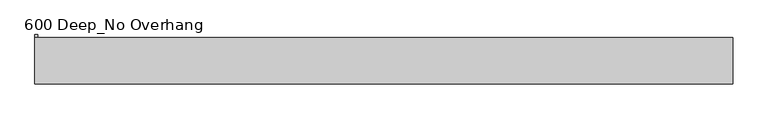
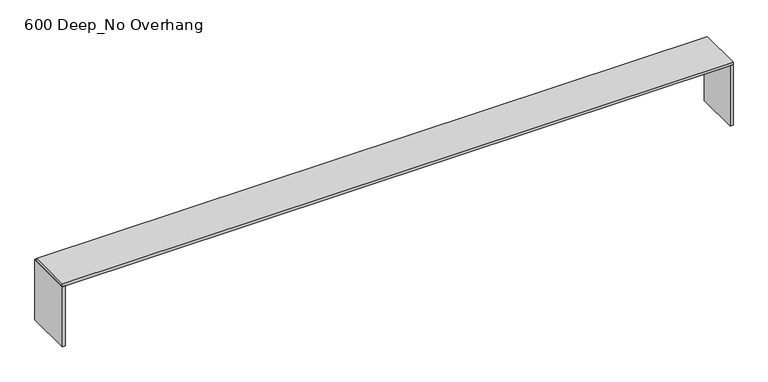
"""IFC4 building model written with IfcOpenShell, lengths in millimetres: furniture geometry, Benchtop_Optional Hole_I Shaped_CAS : 600 Deep_No Overhang."""

from ifc_helpers import new_model, si_unit, frame, origin, origin_with_axes, place, context, project, spatial, polyline, outline, extrude, source, transform, mapped, element, save


def furniture_600_deep_no_overhang_b93bba7b(model_context):
    return source(origin(), model_context, "Body", "SweptSolid", [
        extrude(outline(polyline([(7862.6003264, -600.0), (7862.6003264, 0.0), (7902.6003264, 0.0), (7902.6003264, -600.0), (7862.6003264, -600.0)])), origin_with_axes(), (0.0, 0.0, 1.0), 860.0),
        extrude(outline(polyline([(-1115.2996736, 40.0), (-1115.2996736, -600.0), (-1155.2996736, -600.0), (-1155.2996736, 40.0), (-1115.2996736, 40.0)])), origin_with_axes(), (0.0, 0.0, 1.0), 860.0),
        extrude(outline(polyline([(7902.6003264, 0.0), (7902.6003264, -600.0), (-1155.2996736, -600.0), (-1155.2996736, 0.0), (7902.6003264, 0.0)])), frame((0.0, 0.0, 860.0), z_axis=(0.0, 0.0, 1.0), x_axis=(1.0, 0.0, 0.0)), (0.0, 0.0, 1.0), 40.0),
    ])


if __name__ == "__main__":
    model = new_model("IFC4")
    model_context = context("Model", 3, world=origin())
    ifc_project = project(units=[si_unit("LENGTHUNIT", "METRE", prefix="MILLI")], contexts=[model_context])
    site = spatial("IfcSite", under=ifc_project)
    building = spatial("IfcBuilding", under=site)
    placement = place(None, origin())
    furniture_600_deep_no_overhang_shape = furniture_600_deep_no_overhang_b93bba7b(model_context)
    element("IfcFurniture", 1, ObjectType="Benchtop_Optional Hole_I Shaped_CAS : 600 Deep_No Overhang", at=placement, inside=building, context=model_context, shape_type="MappedRepresentation", body=[
        mapped(furniture_600_deep_no_overhang_shape, transform((0.0, 0.0, 0.0), x_axis=(1.0, 0.0, 0.0), y_axis=(0.0, 1.0, 0.0), z_axis=(0.0, 0.0, 1.0))),
    ])
    save(model, "model.ifc")
